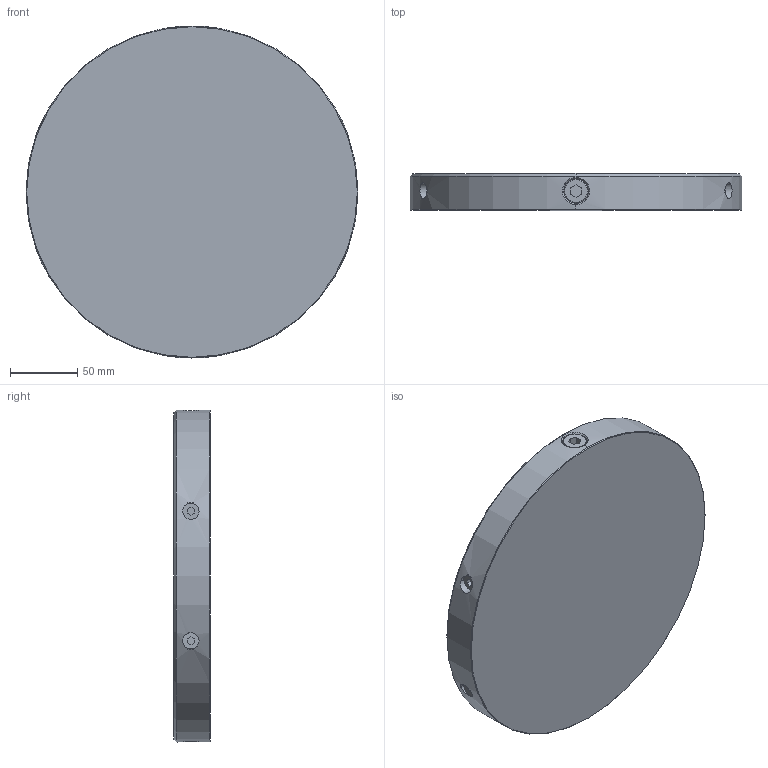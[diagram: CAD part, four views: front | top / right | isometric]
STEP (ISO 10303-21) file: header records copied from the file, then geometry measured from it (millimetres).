
FILE_DESCRIPTION (( 'STEP AP203' ), '1' );
FILE_NAME ('45843.STEP', '2016-11-08T14:28:04', ( '' ), ( '' ), 'SwSTEP 2.0', 'SolidWorks 2015', '' );
FILE_SCHEMA (( 'CONFIG_CONTROL_DESIGN' ));
Length unit declared in the file: millimetre
Products named in the file (1): 45843
Bounding box: 246 x 27 x 246 mm (x, y, z)
Volume: 1198712.2 mm3; surface area: 145265.4 mm2
Topology: 7 solids, 7 shells, 174 faces, 380 edges, 232 vertices
Faces by surface type: plane 70, cylinder 56, cone 28, torus 16, bspline 4
Entity records: 6460 total; most frequent: CARTESIAN_POINT 2530, DIRECTION 822, ORIENTED_EDGE 760, EDGE_CURVE 380, AXIS2_PLACEMENT_3D 311, VERTEX_POINT 232, EDGE_LOOP 202, LINE 200
